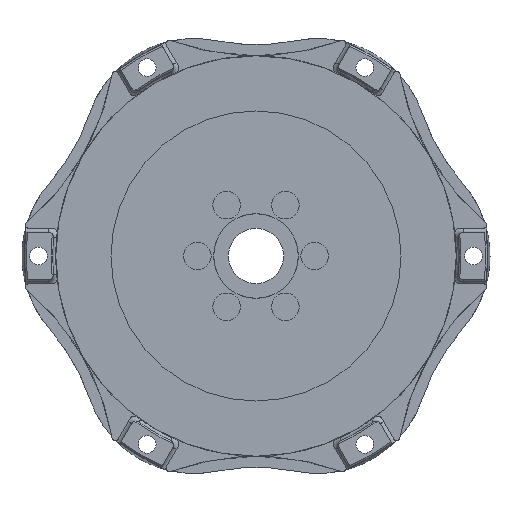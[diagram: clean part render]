
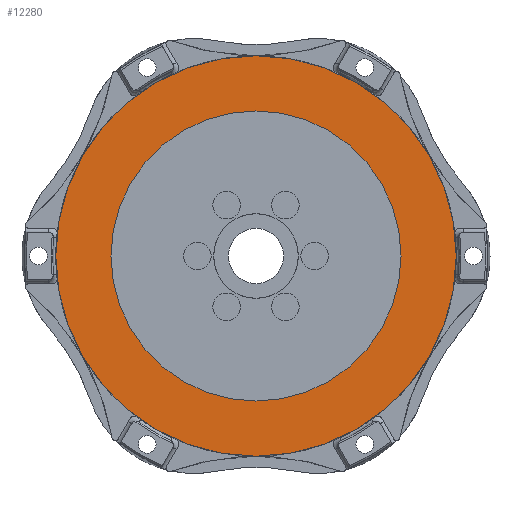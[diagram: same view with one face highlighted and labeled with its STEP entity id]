
A CAD part, left-side view. The second image highlights one B-rep face of the part: STEP entity #12280.
In plain terms, the highlighted planar face has unit normal (-1, 0, 0).
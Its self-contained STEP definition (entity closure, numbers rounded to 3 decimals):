
#1107=CIRCLE('',#13535,66.675);
#1108=CIRCLE('',#13536,92.075);
#3147=ORIENTED_EDGE('',*,*,#6122,.F.);
#3148=ORIENTED_EDGE('',*,*,#6123,.T.);
#6122=EDGE_CURVE('',#7581,#7581,#1107,.T.);
#6123=EDGE_CURVE('',#7582,#7582,#1108,.T.);
#7581=VERTEX_POINT('',#21158);
#7582=VERTEX_POINT('',#21160);
#10222=EDGE_LOOP('',(#3147));
#10223=EDGE_LOOP('',(#3148));
#11116=FACE_BOUND('',#10222,.T.);
#11117=FACE_BOUND('',#10223,.T.);
#11641=PLANE('',#13534);
#12280=ADVANCED_FACE('',(#11116,#11117),#11641,.F.);
#13534=AXIS2_PLACEMENT_3D('',#21156,#16384,#16385);
#13535=AXIS2_PLACEMENT_3D('',#21157,#16386,#16387);
#13536=AXIS2_PLACEMENT_3D('',#21159,#16388,#16389);
#16384=DIRECTION('',(1.,0.,0.));
#16385=DIRECTION('',(0.,0.,-1.));
#16386=DIRECTION('',(-1.,0.,0.));
#16387=DIRECTION('',(0.,0.,1.));
#16388=DIRECTION('',(-1.,0.,0.));
#16389=DIRECTION('',(0.,0.,1.));
#21156=CARTESIAN_POINT('',(24.079,0.,92.075));
#21157=CARTESIAN_POINT('',(24.079,0.,0.));
#21158=CARTESIAN_POINT('',(24.079,0.,66.675));
#21159=CARTESIAN_POINT('',(24.079,0.,0.));
#21160=CARTESIAN_POINT('',(24.079,0.,92.075));
